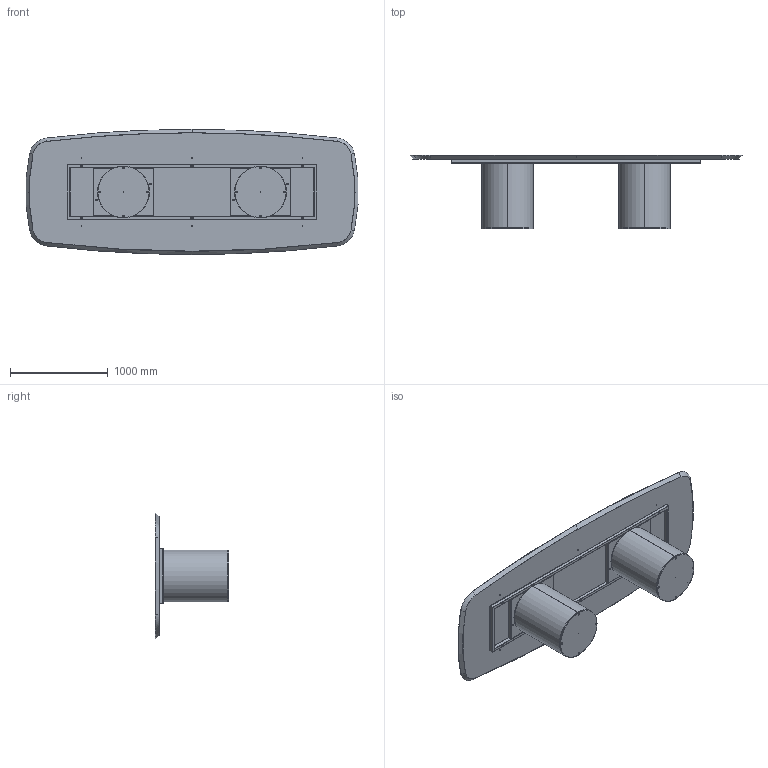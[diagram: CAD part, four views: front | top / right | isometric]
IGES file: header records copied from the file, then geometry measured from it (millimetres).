
Start section: SolidWorks IGES file using analytic representation for surfaces
Global section: file name: Y:\eforma\TECNICO\SOLIDWORKS\E-FORMA\1-TAVOLI\CILINDRO\02 parts\CI48W.IGS; native system: SolidWorks 2022; preprocessor: SolidWorks 2022; author: eforma.tech; date: 240808.091428; units: millimetre
Bounding box: 3390.78 x 748 x 1280 mm (x, y, z)
Volume: 162314386.7 mm3; surface area: 17282483.5 mm2
Topology: 50 solids, 50 shells, 1603 faces, 3616 edges, 2045 vertices
Faces by surface type: revolution 969, plane 634
